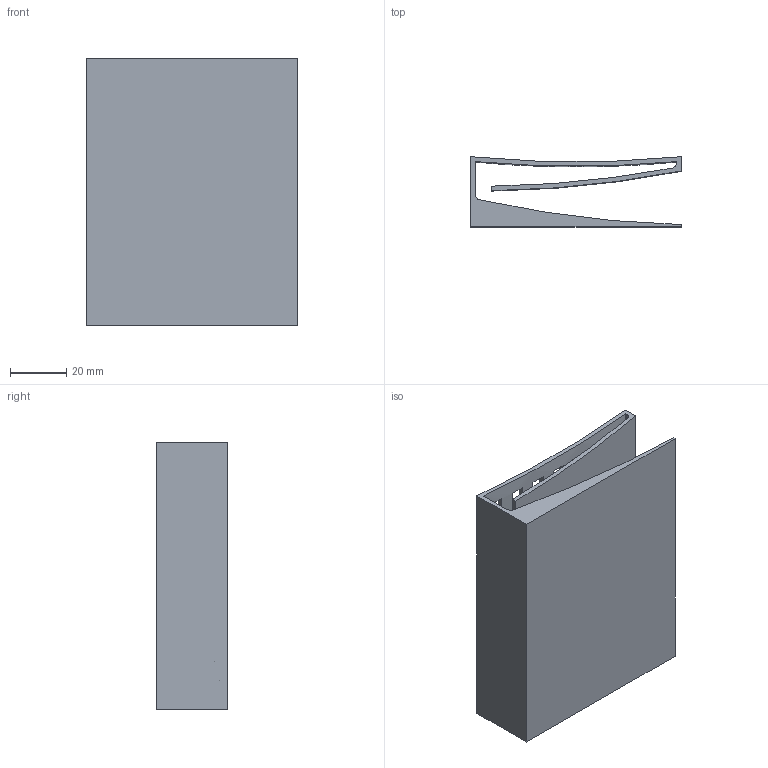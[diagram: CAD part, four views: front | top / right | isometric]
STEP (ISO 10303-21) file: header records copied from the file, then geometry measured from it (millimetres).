
FILE_DESCRIPTION(('FreeCAD Model'),'2;1');
FILE_NAME('Open CASCADE Shape Model','2022-05-28T19:03:45',(''),(''), 'Open CASCADE STEP processor 7.5','FreeCAD','Unknown');
FILE_SCHEMA(('AUTOMOTIVE_DESIGN { 1 0 10303 214 1 1 1 1 }'));
Length unit declared in the file: millimetre
Products named in the file (1): Dish
Bounding box: 75 x 25 x 95 mm (x, y, z)
Volume: 52164.1 mm3; surface area: 45331.9 mm2
Topology: 1 solids, 1 shells, 268 faces, 798 edges, 532 vertices
Faces by surface type: plane 261, cylinder 7
Entity records: 20106 total; most frequent: CARTESIAN_POINT 3975, DIRECTION 3068, LINE 1862, VECTOR 1862, ORIENTED_EDGE 1596, PCURVE 1596, DEFINITIONAL_REPRESENTATION 1596, EDGE_CURVE 798
